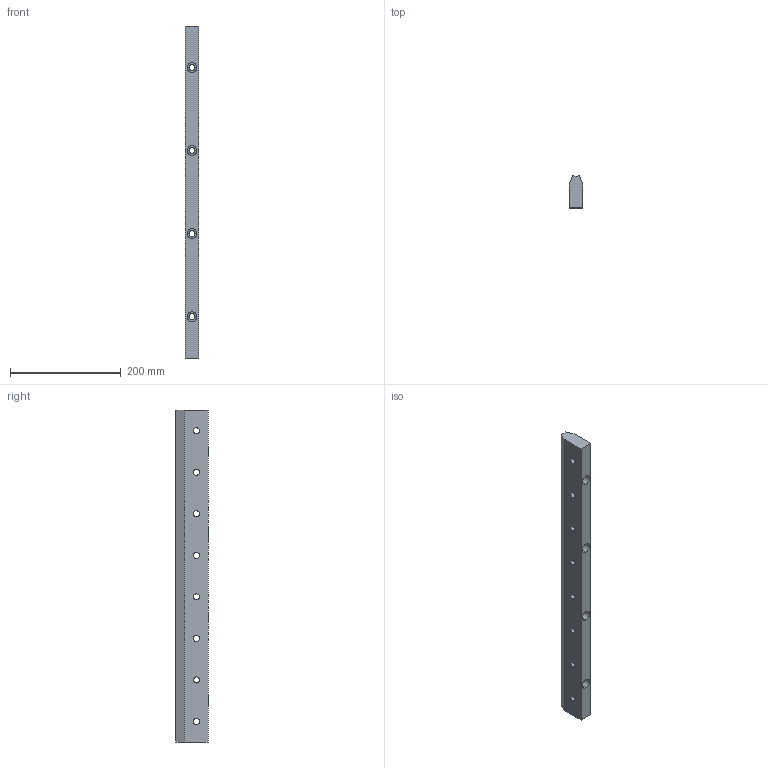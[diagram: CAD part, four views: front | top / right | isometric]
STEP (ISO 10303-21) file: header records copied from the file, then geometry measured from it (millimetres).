
FILE_DESCRIPTION (( 'STEP AP203' ), '1' );
FILE_NAME ('FKWU54-230.step', '2020-03-23T07:53:16', ( '' ), ( '' ), 'SwSTEP 2.0', 'SolidWorks 2019', '' );
FILE_SCHEMA (( 'CONFIG_CONTROL_DESIGN' ));
Length unit declared in the file: millimetre
Products named in the file (2): FKWU54-230
Bounding box: 25 x 58.01 x 599.5 mm (x, y, z)
Volume: 733000.3 mm3; surface area: 112247.5 mm2
Topology: 1 solids, 1 shells, 77 faces, 185 edges, 118 vertices
Faces by surface type: cylinder 48, plane 29
Entity records: 2462 total; most frequent: CARTESIAN_POINT 430, DIRECTION 415, ORIENTED_EDGE 370, EDGE_CURVE 185, AXIS2_PLACEMENT_3D 167, VERTEX_POINT 118, EDGE_LOOP 109, CIRCLE 88
